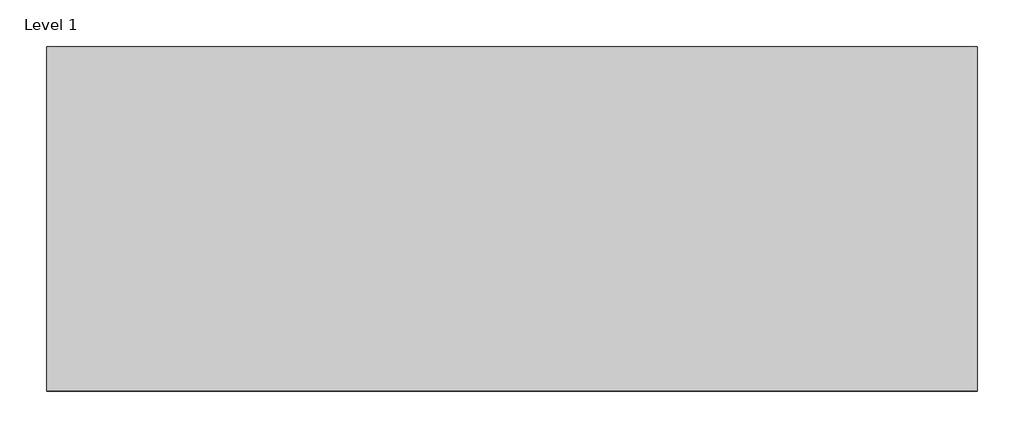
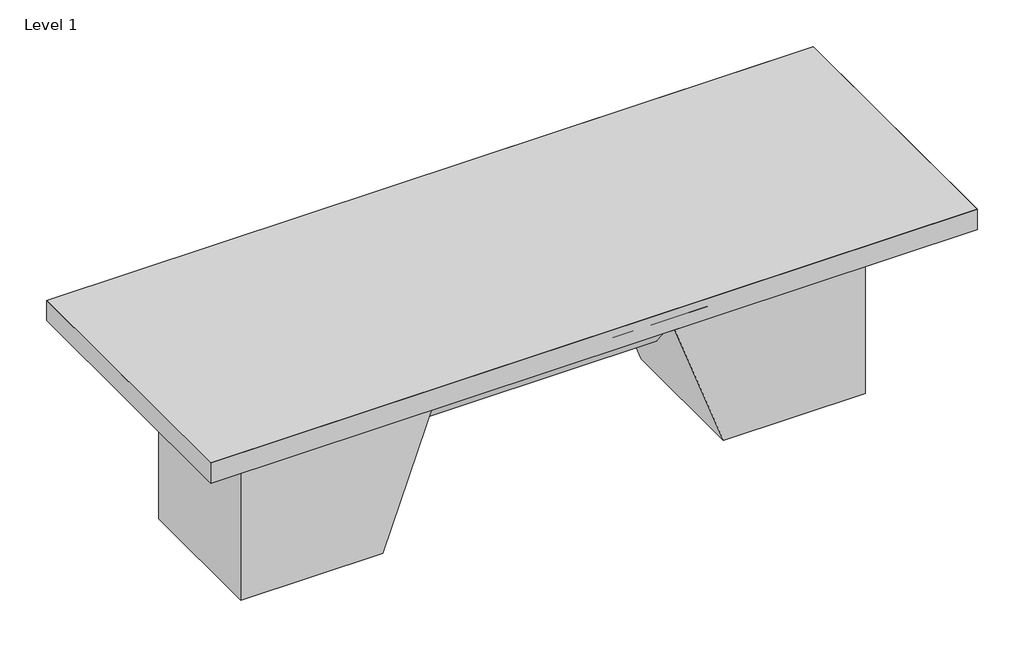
# One storey, incomplete: 5 proxies.
"""IFC4 building model written with IfcOpenShell, lengths in millimetres."""

import ifcopenshell
import ifcopenshell.guid

model = None  # the IFC model being written
_history = None  # IfcOwnerHistory: only IFC2X3 demands one
_inside = {}  # id of a spatial element -> (the spatial element, [elements in it])
_under = {}  # id of a project, library or spatial element -> (it, [spatial elements below it])
_declared = {}  # id of a project -> (the project, [libraries it declares])
_typed = {}  # id of a type object -> (the type object, [elements of that type])
_made_of = {}  # id of a material, layer set ... -> (it, [elements and type objects made of it])


def new_model(schema):
    """Start an empty IFC model of exactly this schema.

    Asked for "IFC4X3", IfcOpenShell would pick the latest addendum, in which some entities
    have other attributes; the version numbers below select the first issue.
    IFC2X3 requires an IfcOwnerHistory on every rooted entity: one is made here for all.
    """
    global model, _history
    if schema == "IFC4X3":
        model = ifcopenshell.file(schema_version=(4, 3, 0, 0))
    else:
        model = ifcopenshell.file(schema=schema)
    _inside.clear()
    _under.clear()
    _declared.clear()
    _typed.clear()
    _made_of.clear()
    _history = None
    if model.schema == "IFC2X3":
        org = make("IfcOrganization", Name="unknown")
        user = make(
            "IfcPersonAndOrganization",
            ThePerson=make("IfcPerson", FamilyName="unknown"),
            TheOrganization=org,
        )
        app = make(
            "IfcApplication",
            ApplicationDeveloper=org,
            Version="unknown",
            ApplicationFullName="unknown",
            ApplicationIdentifier="unknown",
        )
        _history = make(
            "IfcOwnerHistory",
            OwningUser=user,
            OwningApplication=app,
            ChangeAction="ADDED",
            CreationDate=0,
        )
    return model


def make(cls, **values):
    """One entity of the class cls with the attributes given. An attribute that is None is left unset."""
    return model.create_entity(
        cls, **{name: value for name, value in values.items() if value is not None}
    )


def rooted(cls, **values):
    """An entity with a GlobalId (a new one), such as an element, a storey or a relation."""
    return make(cls, GlobalId=ifcopenshell.guid.new(), OwnerHistory=_history, **values)


def si_unit(unit_type, name, prefix=None):
    """IfcSIUnit, for example si_unit("LENGTHUNIT", "METRE", prefix="MILLI")."""
    return make("IfcSIUnit", UnitType=unit_type, Prefix=prefix, Name=name)


def assignment(units):
    """IfcUnitAssignment: the units of a project."""
    return None if units is None else make("IfcUnitAssignment", Units=units)


def point(xyz):
    """IfcCartesianPoint."""
    return None if xyz is None else make("IfcCartesianPoint", Coordinates=xyz)


def direction(xyz):
    """IfcDirection."""
    return None if xyz is None else make("IfcDirection", DirectionRatios=xyz)


def frame(location, z_axis=None, x_axis=None):
    """IfcAxis2Placement3D, a coordinate frame: its origin and axes. An axis left out is left unset."""
    return make(
        "IfcAxis2Placement3D",
        Location=point(location),
        Axis=direction(z_axis),
        RefDirection=direction(x_axis),
    )


def origin():
    """The frame at (0, 0, 0) with its axes left unset."""
    return frame((0.0, 0.0, 0.0))


def origin_with_axes():
    """The frame at (0, 0, 0) with the z axis (0, 0, 1) and the x axis (1, 0, 0) written out."""
    return frame((0.0, 0.0, 0.0), z_axis=(0.0, 0.0, 1.0), x_axis=(1.0, 0.0, 0.0))


def place(relative_to, where):
    """IfcLocalPlacement: puts the frame where relative to a parent placement (None: the world)."""
    return make(
        "IfcLocalPlacement", PlacementRelTo=relative_to, RelativePlacement=where
    )


def context(
    kind, dimensions, precision=None, world=None, true_north=None, identifier=None
):
    """IfcGeometricRepresentationContext, for example the 3D "Model" context."""
    return make(
        "IfcGeometricRepresentationContext",
        ContextIdentifier=identifier,
        ContextType=kind,
        CoordinateSpaceDimension=dimensions,
        Precision=precision,
        WorldCoordinateSystem=world,
        TrueNorth=true_north,
    )


def project(units=None, contexts=None):
    """IfcProject with its units and contexts."""
    return rooted(
        "IfcProject",
        Name="project",
        RepresentationContexts=contexts,
        UnitsInContext=assignment(units),
    )


def spatial(cls, under=None, at=None, **own):
    """A site, building, storey or space (cls), placed at a placement, below another one or the project."""
    s = rooted(cls, ObjectPlacement=at, **own)
    if under is not None:
        _under.setdefault(under.id(), (under, []))[1].append(s)
    return s


def polyline(points):
    """IfcPolyline through the points."""
    return make("IfcPolyline", Points=[point(p) for p in points])


def outline(outer, holes=None, kind="AREA"):
    """IfcArbitraryClosedProfileDef: a profile drawn as a closed curve; with holes, ...WithVoids."""
    if holes is None:
        return make("IfcArbitraryClosedProfileDef", ProfileType=kind, OuterCurve=outer)
    return make(
        "IfcArbitraryProfileDefWithVoids",
        ProfileType=kind,
        OuterCurve=outer,
        InnerCurves=holes,
    )


def extrude(swept, where, along, depth):
    """IfcExtrudedAreaSolid: the profile swept, set in the frame where, extruded along a direction by depth."""
    return make(
        "IfcExtrudedAreaSolid",
        SweptArea=swept,
        Position=where,
        ExtrudedDirection=direction(along),
        Depth=depth,
    )


def faces_of(points, faces, orient=None, outer=None):
    """IfcFace entities. A face is a list of loops; a loop is a list of indices into points, from 0.

    orient and outer hold one flag for each loop. By default every Orientation is true, the
    first loop of a face is its IfcFaceOuterBound and the others are IfcFaceBound.
    """
    made = []
    for i, loops in enumerate(faces):
        bounds = []
        for j, loop in enumerate(loops):
            is_outer = j == 0 if outer is None else outer[i][j]
            bounds.append(
                make(
                    "IfcFaceOuterBound" if is_outer else "IfcFaceBound",
                    Bound=make("IfcPolyLoop", Polygon=[points[k] for k in loop]),
                    Orientation=True if orient is None else orient[i][j],
                )
            )
        made.append(make("IfcFace", Bounds=bounds))
    return made


def faceted_brep(points, faces, orient=None, outer=None, voids=None):
    """IfcFacetedBrep: a solid bounded by flat faces; with voids (closed shells), ...WithVoids."""
    shared = [point(p) for p in points]
    hull = make("IfcClosedShell", CfsFaces=faces_of(shared, faces, orient, outer))
    if voids is None:
        return make("IfcFacetedBrep", Outer=hull)
    return make(
        "IfcFacetedBrepWithVoids",
        Outer=hull,
        Voids=[
            make(cls, CfsFaces=faces_of(shared, fs, o, b)) for cls, fs, o, b in voids
        ],
    )


def shape(context_of_items, identifier, shape_type, items):
    """IfcShapeRepresentation: the items that make up one representation, for example the "Body"."""
    return make(
        "IfcShapeRepresentation",
        ContextOfItems=context_of_items,
        RepresentationIdentifier=identifier,
        RepresentationType=shape_type,
        Items=items,
    )


def source(mapping_origin, context_of_items, identifier, shape_type, items):
    """IfcRepresentationMap: a shape defined once, which mapped items show again and again."""
    return make(
        "IfcRepresentationMap",
        MappingOrigin=mapping_origin,
        MappedRepresentation=shape(context_of_items, identifier, shape_type, items),
    )


def transform(
    local_origin,
    x_axis=None,
    y_axis=None,
    z_axis=None,
    scale=None,
    scale2=None,
    scale3=None,
    uniform=True,
):
    """IfcCartesianTransformationOperator3D, or its non-uniform kind. x_axis, y_axis, z_axis: its Axis1, 2, 3."""
    if uniform:
        return make(
            "IfcCartesianTransformationOperator3D",
            Axis1=direction(x_axis),
            Axis2=direction(y_axis),
            LocalOrigin=point(local_origin),
            Scale=scale,
            Axis3=direction(z_axis),
        )
    return make(
        "IfcCartesianTransformationOperator3DnonUniform",
        Axis1=direction(x_axis),
        Axis2=direction(y_axis),
        LocalOrigin=point(local_origin),
        Scale=scale,
        Axis3=direction(z_axis),
        Scale2=scale2,
        Scale3=scale3,
    )


def mapped(mapping_source, mapping_target):
    """IfcMappedItem: shows the shape of a source again, moved by a transform."""
    return make(
        "IfcMappedItem", MappingSource=mapping_source, MappingTarget=mapping_target
    )


def made_of(thing, what):
    """Note that an element or type object is made of a material, layer set ...; save() writes the relation."""
    if what is not None:
        _made_of.setdefault(what.id(), (what, []))[1].append(thing)
    return thing


def element(
    cls,
    number,
    at=None,
    inside=None,
    cuts=None,
    type_object=None,
    material=None,
    context=None,
    identifier="Body",
    shape_type=None,
    held_by="IfcProductDefinitionShape",
    body=None,
    shapes=None,
    **own,
):
    """One element of the class cls, such as IfcWall. Its Tag is "e" and its number.

    at: its placement. inside: the storey or other place that contains it. cuts: it is an
    opening in that element (IfcRelVoidsElement). A single representation is given by context,
    identifier, shape_type and body (its items); several are given by shapes. held_by: the class
    of the entity that holds the representations. save() writes the other relations.
    """
    e = rooted(cls, Tag="e%d" % number, ObjectPlacement=at, **own)
    if body is not None:
        shapes = [shape(context, identifier, shape_type, body)]
    if shapes is not None:
        e.Representation = make(held_by, Representations=shapes)
    if inside is not None:
        _inside.setdefault(inside.id(), (inside, []))[1].append(e)
    if cuts is not None:
        rooted(
            "IfcRelVoidsElement", RelatingBuildingElement=cuts, RelatedOpeningElement=e
        )
    if type_object is not None:
        _typed.setdefault(type_object.id(), (type_object, []))[1].append(e)
    return made_of(e, material)


def aggregate(whole, parts):
    """IfcRelAggregates: a whole, such as a stair, and the parts it consists of."""
    return rooted("IfcRelAggregates", RelatingObject=whole, RelatedObjects=parts)


def save(model, path):
    """Write the relations noted so far, then the file.

    IfcRelAggregates (storeys below a building ...), IfcRelContainedInSpatialStructure (elements
    in a storey), IfcRelDefinesByType, IfcRelAssociatesMaterial and IfcRelDeclares: one each for
    every whole, place, type object, material and project.
    """
    for whole, parts in _under.values():
        aggregate(whole, parts)
    for where, things in _inside.values():
        rooted(
            "IfcRelContainedInSpatialStructure",
            RelatedElements=things,
            RelatingStructure=where,
        )
    for kind, things in _typed.values():
        rooted("IfcRelDefinesByType", RelatedObjects=things, RelatingType=kind)
    for what, things in _made_of.values():
        rooted("IfcRelAssociatesMaterial", RelatedObjects=things, RelatingMaterial=what)
    for by, libraries in _declared.values():
        rooted("IfcRelDeclares", RelatingContext=by, RelatedDefinitions=libraries)
    model.write(path)


def generic_models_3aa4cdc8(model_context):
    return source(origin(), model_context, "Body", "SweptSolid", [
        extrude(outline(polyline([(1270.0, 685.8), (1270.0, 0.0), (762.0, 0.0), (512.3892133, 685.8), (1270.0, 685.8)])), frame((0.0, 0.0, -127.0), z_axis=(0.0, 0.0, 1.0), x_axis=(1.0, 0.0, 0.0)), (0.0, 0.0, 1.0), 508.0),
    ])


def generic_models_661458be(model_context):
    return source(origin(), model_context, "Body", "SweptSolid", [
        extrude(outline(polyline([(809.625, 47.625), (809.625, 0.0), (0.0, 0.0), (0.0, 47.625), (809.625, 47.625)])), origin_with_axes(), (0.0, 0.0, 1.0), 19.05),
    ])


def generic_models_2b35a4f1(model_context):
    return source(origin(), model_context, "Body", "SolidModel", [
        extrude(outline(polyline([(2724.15, -57.15), (19.05, -57.15), (19.05, -25.4), (2724.15, -25.4), (2724.15, -57.15)])), frame((0.0, 0.0, -996.95), z_axis=(0.0, 0.0, 1.0), x_axis=(1.0, 0.0, 0.0)), (0.0, 0.0, 1.0), 977.9),
        faceted_brep([(19.05, 0.0, -996.95), (0.0, 19.05, -1016.0), (0.0, -57.15, -1016.0), (19.05, -57.15, -996.95), (2743.2, 19.05, -1016.0), (2743.2, -57.15, -1016.0), (2724.15, 0.0, -996.95), (2724.15, -57.15, -996.95)], [[[0, 1, 2, 3]], [[1, 4, 5, 2]], [[4, 6, 7, 5]], [[6, 0, 3, 7]], [[3, 2, 5, 7]], [[4, 1, 0, 6]]]),
        faceted_brep([(2743.2, 19.05, -1016.0), (2743.2, 19.05, 0.0), (2743.2, -57.15, 0.0), (2743.2, -57.15, -1016.0), (2724.15, 0.0, -19.05), (2724.15, -57.15, -19.05), (2724.15, 0.0, -996.95), (2724.15, -57.15, -996.95)], [[[0, 1, 2, 3]], [[1, 4, 5, 2]], [[4, 6, 7, 5]], [[6, 0, 3, 7]], [[3, 2, 5, 7]], [[4, 1, 0, 6]]]),
        faceted_brep([(0.0, 19.05, 0.0), (0.0, 19.05, -1016.0), (0.0, -57.15, -1016.0), (0.0, -57.15, 0.0), (19.05, 0.0, -996.95), (19.05, -57.15, -996.95), (19.05, 0.0, -19.05), (19.05, -57.15, -19.05)], [[[0, 1, 2, 3]], [[1, 4, 5, 2]], [[4, 6, 7, 5]], [[6, 0, 3, 7]], [[3, 2, 5, 7]], [[4, 1, 0, 6]]]),
        faceted_brep([(2724.15, -57.15, -19.05), (19.05, -57.15, -19.05), (19.05, 0.0, -19.05), (2724.15, 0.0, -19.05), (0.0, -57.15, 0.0), (2743.2, -57.15, 0.0), (2743.2, 19.05, 0.0), (0.0, 19.05, 0.0)], [[[0, 1, 2, 3]], [[4, 5, 6, 7]], [[1, 0, 5, 4]], [[7, 2, 1, 4]], [[3, 6, 5, 0]], [[2, 7, 6, 3]]]),
        faceted_brep([(0.0, 19.05, -1016.0), (508.0, -488.95, -508.0), (0.0, 19.05, 0.0), (2743.2, 19.05, -1016.0), (2235.2, -488.95, -508.0), (2743.2, 19.05, 0.0)], [[[0, 1, 2]], [[1, 0, 3, 4]], [[1, 4, 5, 2]], [[4, 3, 5]], [[5, 3, 0, 2]]]),
    ])


def generic_models_1256d309(model_context):
    return source(origin(), model_context, "Body", "SweptSolid", [
        extrude(outline(polyline([(0.0, 0.0), (0.0, 685.8), (757.6107867, 685.8), (508.0, 0.0), (0.0, 0.0)])), origin_with_axes(), (0.0, 0.0, 1.0), 508.0),
    ])


def generic_models_ab67c345(model_context):
    return source(origin(), model_context, "Body", "SweptSolid", [
        extrude(outline(polyline([(1122.1291385, 266.7), (97.0708615, 266.7), (249.6107867, 685.8), (969.5892133, 685.8), (1122.1291385, 266.7)])), origin_with_axes(), (0.0, 0.0, 1.0), 12.7),
    ])


model = new_model("IFC4")

# Units and contexts
model_context = context("Model", 3, world=origin())
ifc_project = project(units=[si_unit("LENGTHUNIT", "METRE", prefix="MILLI")], contexts=[model_context])

# Site, building, storey
site = spatial("IfcSite", under=ifc_project)
building = spatial("IfcBuilding", under=site)
storey = spatial("IfcBuildingStorey", under=building, Name="Level 1", Elevation=0.0)

# Proxies
placement = place(None, origin())
generic_models_shape = generic_models_3aa4cdc8(model_context)
element("IfcBuildingElementProxy", 1, Name="DATUM^OFFICE 2_DESK-RIGHT BASE", ObjectType="DATUM^OFFICE 2_DESK-RIGHT BASE", at=placement, inside=storey, context=model_context, shape_type="MappedRepresentation", body=[
    mapped(generic_models_shape, transform((1219.2, -381.0, 0.0), x_axis=(1.0, 0.0, 0.0), y_axis=(0.0, 0.0, 1.0), z_axis=(0.0, -1.0, 0.0))),
])
generic_models_2_shape = generic_models_661458be(model_context)
element("IfcBuildingElementProxy", 2, Name="DATUM^OFFICES_CENTER DRAWER-32in DRAWER FRT", ObjectType="DATUM^OFFICES_CENTER DRAWER-32in DRAWER FRT", at=placement, inside=storey, context=model_context, shape_type="MappedRepresentation", body=[
    mapped(generic_models_2_shape, transform((966.7875, -996.95, 685.8), x_axis=(1.0, 0.0, 0.0), y_axis=(0.0, 0.0, 1.0), z_axis=(0.0, -1.0, 0.0))),
])
generic_models_3_shape = generic_models_2b35a4f1(model_context)
element("IfcBuildingElementProxy", 3, Name="DATUM^OFFICE 2_DESK-WORKSURFACE", ObjectType="DATUM^OFFICE 2_DESK-WORKSURFACE", at=placement, inside=storey, context=model_context, shape_type="MappedRepresentation", body=[
    mapped(generic_models_3_shape, transform((0.0, -1016.0, 742.95), x_axis=(1.0, 0.0, 0.0), y_axis=(0.0, 0.0, 1.0), z_axis=(0.0, -1.0, 0.0))),
])
generic_models_4_shape = generic_models_1256d309(model_context)
element("IfcBuildingElementProxy", 4, Name="DATUM^OFFICE 2_DESK-LEFT BASE", ObjectType="DATUM^OFFICE 2_DESK-LEFT BASE", at=placement, inside=storey, context=model_context, shape_type="MappedRepresentation", body=[
    mapped(generic_models_4_shape, transform((254.0, -254.0, 0.0), x_axis=(1.0, 0.0, 0.0), y_axis=(0.0, 0.0, 1.0), z_axis=(0.0, -1.0, 0.0))),
])
generic_models_5_shape = generic_models_ab67c345(model_context)
element("IfcBuildingElementProxy", 5, Name="DATUM^OFFICE 2_DESK-ACRYLIC", ObjectType="DATUM^OFFICE 2_DESK-ACRYLIC", at=placement, inside=storey, context=model_context, shape_type="MappedRepresentation", body=[
    mapped(generic_models_5_shape, transform((762.0, -311.15, 0.0), x_axis=(1.0, 0.0, 0.0), y_axis=(0.0, 0.0, 1.0), z_axis=(0.0, -1.0, 0.0))),
])

save(model, "model.ifc")
